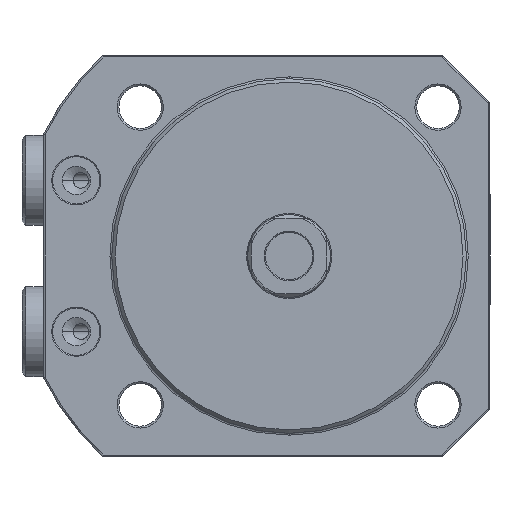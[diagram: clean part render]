
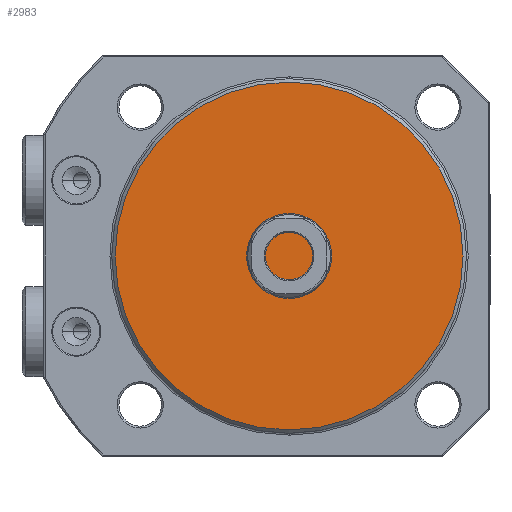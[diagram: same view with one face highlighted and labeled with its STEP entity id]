
A CAD part, front view. The second image highlights one B-rep face of the part: STEP entity #2983.
In plain terms, the highlighted planar face has unit normal (0, -1, 0) as drawn and (-1, 0, 0) by its records, which use the part's own axes.
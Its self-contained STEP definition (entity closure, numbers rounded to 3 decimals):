
#1692=PLANE('',#8217);
#2983=ADVANCED_FACE('',(#3381),#1692,.F.);
#3381=FACE_OUTER_BOUND('',#3800,.T.);
#3800=EDGE_LOOP('',(#5588));
#5588=ORIENTED_EDGE('',*,*,#7039,.T.);
#6145=VERTEX_POINT('',#13524);
#7039=EDGE_CURVE('',#6145,#6145,#7447,.T.);
#7447=CIRCLE('',#8216,36.8);
#8216=AXIS2_PLACEMENT_3D('',#13523,#10123,#10124);
#8217=AXIS2_PLACEMENT_3D('',#13525,#10125,#10126);
#10123=DIRECTION('',(-1.,0.,0.));
#10124=DIRECTION('',(0.,0.,-1.));
#10125=DIRECTION('',(1.,0.,0.));
#10126=DIRECTION('',(0.,0.,1.));
#13523=CARTESIAN_POINT('',(0.,0.,0.));
#13524=CARTESIAN_POINT('',(0.,0.,-36.8));
#13525=CARTESIAN_POINT('',(0.,0.,0.));
